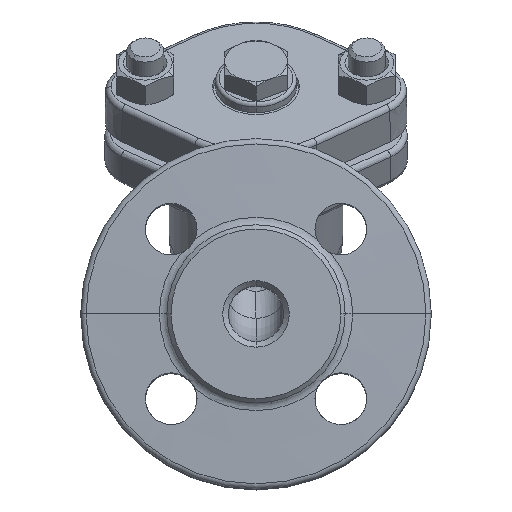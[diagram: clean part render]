
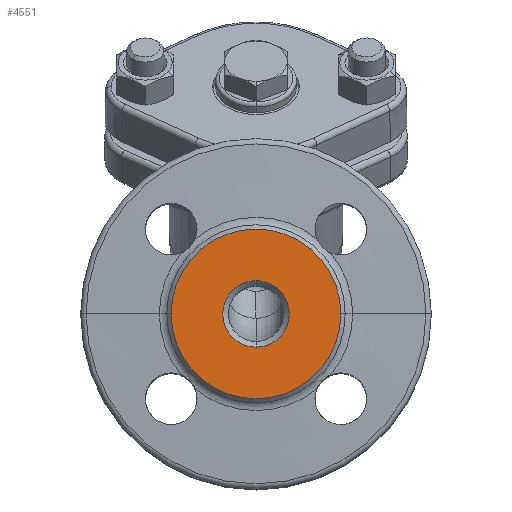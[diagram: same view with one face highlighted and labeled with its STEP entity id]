
A CAD part, top view. The second image highlights one B-rep face of the part: STEP entity #4551.
In plain terms, the highlighted planar face has unit normal (0, 0, 1).
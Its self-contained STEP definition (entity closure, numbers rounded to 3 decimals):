
#1724 = CARTESIAN_POINT ( 'NONE',  ( 0., 0., 130. ) ) ;
#1725 = DIRECTION ( 'NONE',  ( 0., 0., -1. ) ) ;
#1726 = DIRECTION ( 'NONE',  ( -1., 0., 0. ) ) ;
#2061 = CIRCLE ( 'NONE', #13495, 9. ) ;
#3486 = VERTEX_POINT ( 'NONE', #3845 ) ;
#3487 = VERTEX_POINT ( 'NONE', #3844 ) ;
#3515 = VERTEX_POINT ( 'NONE', #3816 ) ;
#3516 = VERTEX_POINT ( 'NONE', #3815 ) ;
#3815 = CARTESIAN_POINT ( 'NONE',  ( 0., 9., 130. ) ) ;
#3816 = CARTESIAN_POINT ( 'NONE',  ( 0., -9., 130. ) ) ;
#3844 = CARTESIAN_POINT ( 'NONE',  ( 23., 0., 130. ) ) ;
#3845 = CARTESIAN_POINT ( 'NONE',  ( -23., 0., 130. ) ) ;
#4062 = EDGE_CURVE ( 'NONE', #3487, #3486, #7449, .T. ) ;
#4286 = EDGE_CURVE ( 'NONE', #3516, #3515, #9612, .T. ) ;
#4300 = EDGE_CURVE ( 'NONE', #3486, #3487, #9622, .T. ) ;
#4551 = ADVANCED_FACE ( 'NONE', ( #9868, #9864 ), #14834, .F. ) ;
#5056 = EDGE_CURVE ( 'NONE', #3515, #3516, #2061, .T. ) ;
#5113 = AXIS2_PLACEMENT_3D ( 'NONE', #8815, #8816, #8817 ) ;
#5217 = AXIS2_PLACEMENT_3D ( 'NONE', #11052, #11093, #11094 ) ;
#5230 = AXIS2_PLACEMENT_3D ( 'NONE', #11184, #11191, #11192 ) ;
#6856 = EDGE_LOOP ( 'NONE', ( #7342, #7343 ) ) ;
#6866 = EDGE_LOOP ( 'NONE', ( #7344, #7345 ) ) ;
#7342 = ORIENTED_EDGE ( 'NONE', *, *, #5056, .T. ) ;
#7343 = ORIENTED_EDGE ( 'NONE', *, *, #4286, .T. ) ;
#7344 = ORIENTED_EDGE ( 'NONE', *, *, #4062, .F. ) ;
#7345 = ORIENTED_EDGE ( 'NONE', *, *, #4300, .F. ) ;
#7449 = CIRCLE ( 'NONE', #5113, 23. ) ;
#8815 = CARTESIAN_POINT ( 'NONE',  ( 0., 0., 130. ) ) ;
#8816 = DIRECTION ( 'NONE',  ( 0., 0., -1. ) ) ;
#8817 = DIRECTION ( 'NONE',  ( -1., 0., 0. ) ) ;
#9612 = CIRCLE ( 'NONE', #5217, 9. ) ;
#9622 = CIRCLE ( 'NONE', #5230, 23. ) ;
#9864 = FACE_OUTER_BOUND ( 'NONE', #6866, .T. ) ;
#9868 = FACE_BOUND ( 'NONE', #6856, .T. ) ;
#11052 = CARTESIAN_POINT ( 'NONE',  ( 0., 0., 130. ) ) ;
#11093 = DIRECTION ( 'NONE',  ( 0., 0., -1. ) ) ;
#11094 = DIRECTION ( 'NONE',  ( -1., 0., 0. ) ) ;
#11184 = CARTESIAN_POINT ( 'NONE',  ( 0., 0., 130. ) ) ;
#11191 = DIRECTION ( 'NONE',  ( 0., 0., -1. ) ) ;
#11192 = DIRECTION ( 'NONE',  ( -1., 0., 0. ) ) ;
#13185 = AXIS2_PLACEMENT_3D ( 'NONE', #14833, #14842, #14843 ) ;
#13495 = AXIS2_PLACEMENT_3D ( 'NONE', #1724, #1725, #1726 ) ;
#14833 = CARTESIAN_POINT ( 'NONE',  ( 0., 0., 130. ) ) ;
#14834 = PLANE ( 'NONE',  #13185 ) ;
#14842 = DIRECTION ( 'NONE',  ( 0., 0., -1. ) ) ;
#14843 = DIRECTION ( 'NONE',  ( -1., 0., 0. ) ) ;
